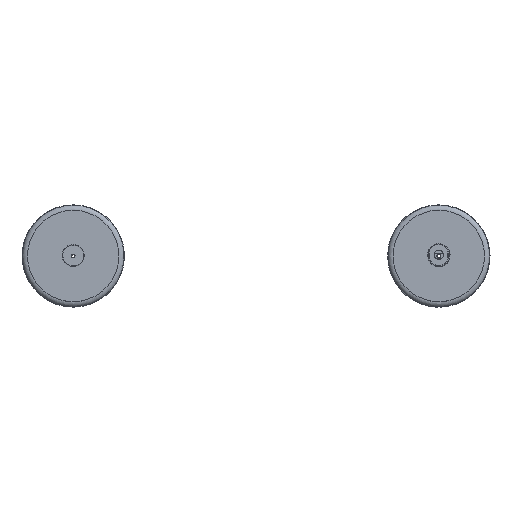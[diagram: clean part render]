
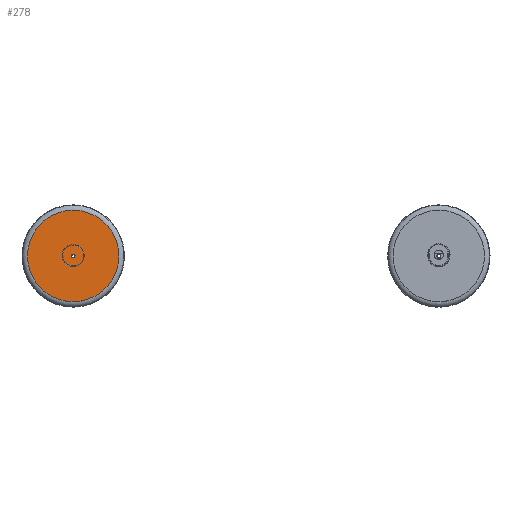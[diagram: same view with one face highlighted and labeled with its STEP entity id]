
A CAD part, top view. The second image highlights one B-rep face of the part: STEP entity #278.
In plain terms, the highlighted planar face has unit normal (0, 0, 1).
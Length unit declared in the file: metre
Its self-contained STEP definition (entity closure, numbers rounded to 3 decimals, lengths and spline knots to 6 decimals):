
#278 = ADVANCED_FACE( '', ( #350, #351 ), #352, .F. );
#350 = FACE_BOUND( '', #511, .T. );
#351 = FACE_OUTER_BOUND( '', #512, .T. );
#352 = PLANE( '', #513 );
#511 = EDGE_LOOP( '', ( #682 ) );
#512 = EDGE_LOOP( '', ( #683 ) );
#513 = AXIS2_PLACEMENT_3D( '', #684, #685, #686 );
#682 = ORIENTED_EDGE( '', *, *, #1105, .F. );
#683 = ORIENTED_EDGE( '', *, *, #1098, .F. );
#684 = CARTESIAN_POINT( '', ( 0., 0., 0.015 ) );
#685 = DIRECTION( '', ( 0., 0., -1. ) );
#686 = DIRECTION( '', ( -1., 0., 0. ) );
#1098 = EDGE_CURVE( '', #1231, #1231, #1232, .T. );
#1105 = EDGE_CURVE( '', #1245, #1245, #1246, .T. );
#1231 = VERTEX_POINT( '', #1461 );
#1232 = CIRCLE( '', #1462, 0.125 );
#1245 = VERTEX_POINT( '', #1621 );
#1246 = CIRCLE( '', #1622, 0.005 );
#1461 = CARTESIAN_POINT( '', ( -0.125, 0., 0.015 ) );
#1462 = AXIS2_PLACEMENT_3D( '', #2145, #2146, #2147 );
#1621 = CARTESIAN_POINT( '', ( 0., 0.005, 0.015 ) );
#1622 = AXIS2_PLACEMENT_3D( '', #2160, #2161, #2162 );
#2145 = CARTESIAN_POINT( '', ( 0., 0., 0.015 ) );
#2146 = DIRECTION( '', ( 0., 0., -1. ) );
#2147 = DIRECTION( '', ( -1., 0., 0. ) );
#2160 = CARTESIAN_POINT( '', ( 0., 0., 0.015 ) );
#2161 = DIRECTION( '', ( 0., 0., 1. ) );
#2162 = DIRECTION( '', ( 0., 1., 0. ) );
